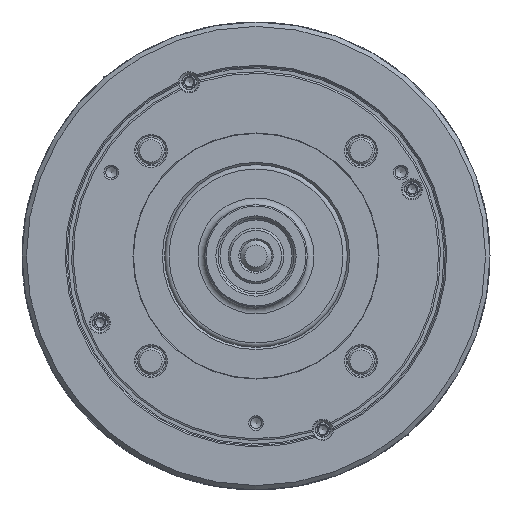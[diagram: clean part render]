
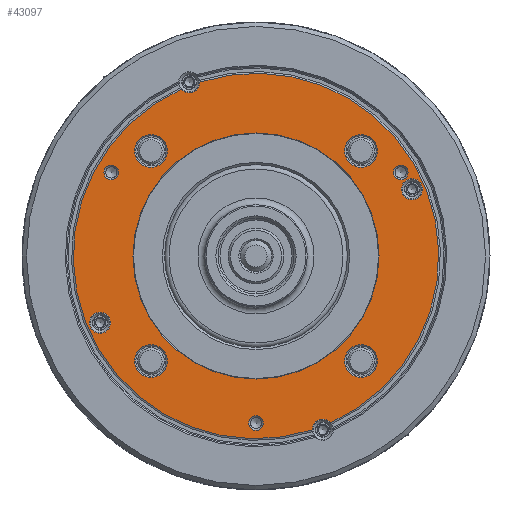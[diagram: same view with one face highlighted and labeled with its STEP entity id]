
A CAD part, left-side view. The second image highlights one B-rep face of the part: STEP entity #43097.
In plain terms, the highlighted planar face has unit normal (-1, 0, 0).
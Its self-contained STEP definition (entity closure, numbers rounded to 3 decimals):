
#570 = VERTEX_POINT ( 'NONE', #42467 ) ;
#886 = DIRECTION ( 'NONE',  ( 0., 1., 0. ) ) ;
#1487 = DIRECTION ( 'NONE',  ( 0., 1., 0. ) ) ;
#1668 = CARTESIAN_POINT ( 'NONE',  ( -86., 70., -30. ) ) ;
#1771 = CARTESIAN_POINT ( 'NONE',  ( -86., 0., -75. ) ) ;
#5060 = DIRECTION ( 'NONE',  ( 0., 1., 0. ) ) ;
#7553 = FACE_BOUND ( 'NONE', #17034, .T. ) ;
#8071 = FACE_BOUND ( 'NONE', #34439, .T. ) ;
#9124 = FACE_OUTER_BOUND ( 'NONE', #70156, .T. ) ;
#9463 = ORIENTED_EDGE ( 'NONE', *, *, #91098, .T. ) ;
#9535 = DIRECTION ( 'NONE',  ( 1., 0., 0. ) ) ;
#9631 = DIRECTION ( 'NONE',  ( 1., 0., 0. ) ) ;
#9740 = EDGE_LOOP ( 'NONE', ( #69068 ) ) ;
#9765 = VERTEX_POINT ( 'NONE', #24341 ) ;
#10483 = EDGE_CURVE ( 'NONE', #47165, #56048, #20177, .T. ) ;
#10740 = CIRCLE ( 'NONE', #103557, 7.35 ) ;
#10756 = EDGE_LOOP ( 'NONE', ( #20462 ) ) ;
#10917 = DIRECTION ( 'NONE',  ( 1., 0., 0. ) ) ;
#13293 = DIRECTION ( 'NONE',  ( 1., 0., 0. ) ) ;
#15990 = DIRECTION ( 'NONE',  ( 0., 1., 0. ) ) ;
#16128 = FACE_BOUND ( 'NONE', #93890, .T. ) ;
#16643 = FACE_BOUND ( 'NONE', #25388, .T. ) ;
#16972 = CARTESIAN_POINT ( 'NONE',  ( -86., 25.25, 78.016 ) ) ;
#17034 = EDGE_LOOP ( 'NONE', ( #75869 ) ) ;
#17186 = EDGE_LOOP ( 'NONE', ( #56562 ) ) ;
#18577 = CARTESIAN_POINT ( 'NONE',  ( -86., -64.952, 37.5 ) ) ;
#18767 = DIRECTION ( 'NONE',  ( 0., 1., 0. ) ) ;
#18832 = EDGE_CURVE ( 'NONE', #94351, #94351, #81078, .T. ) ;
#19294 = DIRECTION ( 'NONE',  ( 0., 1., 0. ) ) ;
#19392 = AXIS2_PLACEMENT_3D ( 'NONE', #50035, #9631, #19294 ) ;
#20177 = CIRCLE ( 'NONE', #94099, 82. ) ;
#20462 = ORIENTED_EDGE ( 'NONE', *, *, #85239, .T. ) ;
#21091 = CARTESIAN_POINT ( 'NONE',  ( -86., 0., 0. ) ) ;
#21182 = CARTESIAN_POINT ( 'NONE',  ( -86., -30., -78. ) ) ;
#22217 = VERTEX_POINT ( 'NONE', #67730 ) ;
#23670 = FACE_BOUND ( 'NONE', #65358, .T. ) ;
#24133 = AXIS2_PLACEMENT_3D ( 'NONE', #21091, #60399, #53406 ) ;
#24341 = CARTESIAN_POINT ( 'NONE',  ( -86., -39.814, -47.164 ) ) ;
#24584 = DIRECTION ( 'NONE',  ( 1., 0., 0. ) ) ;
#24734 = VERTEX_POINT ( 'NONE', #57567 ) ;
#25388 = EDGE_LOOP ( 'NONE', ( #64208 ) ) ;
#27410 = ORIENTED_EDGE ( 'NONE', *, *, #50680, .F. ) ;
#30500 = CIRCLE ( 'NONE', #59703, 55.2 ) ;
#32654 = CIRCLE ( 'NONE', #24133, 82. ) ;
#33335 = VERTEX_POINT ( 'NONE', #89887 ) ;
#33947 = AXIS2_PLACEMENT_3D ( 'NONE', #1771, #67910, #59851 ) ;
#34223 = CIRCLE ( 'NONE', #61743, 3.3 ) ;
#34439 = EDGE_LOOP ( 'NONE', ( #101476 ) ) ;
#39105 = EDGE_LOOP ( 'NONE', ( #39906 ) ) ;
#39906 = ORIENTED_EDGE ( 'NONE', *, *, #62792, .F. ) ;
#40491 = EDGE_CURVE ( 'NONE', #9765, #9765, #10740, .T. ) ;
#42467 = CARTESIAN_POINT ( 'NONE',  ( -86., -39.814, 47.164 ) ) ;
#43097 = ADVANCED_FACE ( 'NONE', ( #105492, #7553, #16128, #23670, #48972, #16643, #8071, #82318, #84940, #9124, #67737 ), #101097, .F. ) ;
#43795 = ORIENTED_EDGE ( 'NONE', *, *, #10483, .F. ) ;
#45913 = CARTESIAN_POINT ( 'NONE',  ( -86., -65.25, 30. ) ) ;
#46319 = VERTEX_POINT ( 'NONE', #80732 ) ;
#47165 = VERTEX_POINT ( 'NONE', #50848 ) ;
#47747 = AXIS2_PLACEMENT_3D ( 'NONE', #21182, #78757, #5060 ) ;
#48972 = FACE_BOUND ( 'NONE', #39105, .T. ) ;
#49902 = CARTESIAN_POINT ( 'NONE',  ( -86., 33.536, 74.829 ) ) ;
#50035 = CARTESIAN_POINT ( 'NONE',  ( -86., 0., -82. ) ) ;
#50680 = EDGE_CURVE ( 'NONE', #81919, #81919, #54793, .T. ) ;
#50848 = CARTESIAN_POINT ( 'NONE',  ( -86., -25.25, -78.016 ) ) ;
#51357 = CARTESIAN_POINT ( 'NONE',  ( -86., 64.952, 37.5 ) ) ;
#52890 = CARTESIAN_POINT ( 'NONE',  ( -86., -47.164, 47.164 ) ) ;
#53072 = CARTESIAN_POINT ( 'NONE',  ( -86., 47.164, -47.164 ) ) ;
#53338 = CARTESIAN_POINT ( 'NONE',  ( -86., 54.514, -47.164 ) ) ;
#53406 = DIRECTION ( 'NONE',  ( 0., 1., 0. ) ) ;
#54613 = DIRECTION ( 'NONE',  ( -1., 0., 0. ) ) ;
#54642 = CIRCLE ( 'NONE', #47747, 4.75 ) ;
#54793 = CIRCLE ( 'NONE', #33947, 3.3 ) ;
#55498 = CARTESIAN_POINT ( 'NONE',  ( -86., 30., 78. ) ) ;
#56048 = VERTEX_POINT ( 'NONE', #49902 ) ;
#56562 = ORIENTED_EDGE ( 'NONE', *, *, #93909, .T. ) ;
#56901 = DIRECTION ( 'NONE',  ( 0., 1., 0. ) ) ;
#57563 = AXIS2_PLACEMENT_3D ( 'NONE', #84898, #13293, #78414 ) ;
#57567 = CARTESIAN_POINT ( 'NONE',  ( -86., 74.75, -30. ) ) ;
#57636 = DIRECTION ( 'NONE',  ( 0., 1., 0. ) ) ;
#58171 = EDGE_CURVE ( 'NONE', #100689, #100689, #34223, .T. ) ;
#58463 = AXIS2_PLACEMENT_3D ( 'NONE', #1668, #83429, #57636 ) ;
#59703 = AXIS2_PLACEMENT_3D ( 'NONE', #74754, #82850, #18767 ) ;
#59851 = DIRECTION ( 'NONE',  ( 0., -1., 0. ) ) ;
#60399 = DIRECTION ( 'NONE',  ( 1., 0., 0. ) ) ;
#61383 = VERTEX_POINT ( 'NONE', #53338 ) ;
#61743 = AXIS2_PLACEMENT_3D ( 'NONE', #51357, #84162, #100322 ) ;
#62792 = EDGE_CURVE ( 'NONE', #102814, #102814, #68196, .T. ) ;
#64208 = ORIENTED_EDGE ( 'NONE', *, *, #84593, .T. ) ;
#64804 = CIRCLE ( 'NONE', #87133, 7.35 ) ;
#65358 = EDGE_LOOP ( 'NONE', ( #98753 ) ) ;
#66919 = AXIS2_PLACEMENT_3D ( 'NONE', #55498, #9535, #1487 ) ;
#67355 = CARTESIAN_POINT ( 'NONE',  ( -86., -3.3, -75. ) ) ;
#67730 = CARTESIAN_POINT ( 'NONE',  ( -86., -33.536, -74.829 ) ) ;
#67737 = FACE_BOUND ( 'NONE', #80106, .T. ) ;
#67876 = EDGE_CURVE ( 'NONE', #61383, #61383, #64804, .T. ) ;
#67910 = DIRECTION ( 'NONE',  ( -1., 0., 0. ) ) ;
#68075 = CARTESIAN_POINT ( 'NONE',  ( -86., 0., 0. ) ) ;
#68196 = CIRCLE ( 'NONE', #90567, 3.3 ) ;
#68341 = ORIENTED_EDGE ( 'NONE', *, *, #69400, .T. ) ;
#68393 = CARTESIAN_POINT ( 'NONE',  ( -86., 61.652, 37.5 ) ) ;
#68423 = EDGE_CURVE ( 'NONE', #46319, #46319, #30500, .T. ) ;
#69068 = ORIENTED_EDGE ( 'NONE', *, *, #40491, .T. ) ;
#69400 = EDGE_CURVE ( 'NONE', #47165, #22217, #54642, .T. ) ;
#70156 = EDGE_LOOP ( 'NONE', ( #86788, #9463, #43795, #68341 ) ) ;
#70239 = DIRECTION ( 'NONE',  ( 0., 1., 0. ) ) ;
#70882 = CARTESIAN_POINT ( 'NONE',  ( -86., -70., 30. ) ) ;
#72330 = DIRECTION ( 'NONE',  ( 0., -1., 0. ) ) ;
#73829 = CIRCLE ( 'NONE', #66919, 4.75 ) ;
#74048 = DIRECTION ( 'NONE',  ( 1., 0., 0. ) ) ;
#74754 = CARTESIAN_POINT ( 'NONE',  ( -86., 0., 0. ) ) ;
#75869 = ORIENTED_EDGE ( 'NONE', *, *, #18832, .T. ) ;
#77007 = CARTESIAN_POINT ( 'NONE',  ( -86., -68.252, 37.5 ) ) ;
#77818 = DIRECTION ( 'NONE',  ( 1., 0., 0. ) ) ;
#78414 = DIRECTION ( 'NONE',  ( 0., 1., 0. ) ) ;
#78757 = DIRECTION ( 'NONE',  ( 1., 0., 0. ) ) ;
#80106 = EDGE_LOOP ( 'NONE', ( #104868 ) ) ;
#80732 = CARTESIAN_POINT ( 'NONE',  ( -86., 55.2, 0. ) ) ;
#81078 = CIRCLE ( 'NONE', #94816, 4.75 ) ;
#81919 = VERTEX_POINT ( 'NONE', #67355 ) ;
#82318 = FACE_BOUND ( 'NONE', #9740, .T. ) ;
#82850 = DIRECTION ( 'NONE',  ( 1., 0., 0. ) ) ;
#83429 = DIRECTION ( 'NONE',  ( 1., 0., 0. ) ) ;
#84162 = DIRECTION ( 'NONE',  ( -1., 0., 0. ) ) ;
#84593 = EDGE_CURVE ( 'NONE', #33335, #33335, #103974, .T. ) ;
#84898 = CARTESIAN_POINT ( 'NONE',  ( -86., 47.164, 47.164 ) ) ;
#84940 = FACE_BOUND ( 'NONE', #10756, .T. ) ;
#85239 = EDGE_CURVE ( 'NONE', #570, #570, #95431, .T. ) ;
#86788 = ORIENTED_EDGE ( 'NONE', *, *, #93702, .F. ) ;
#87133 = AXIS2_PLACEMENT_3D ( 'NONE', #53072, #77818, #70239 ) ;
#89723 = CARTESIAN_POINT ( 'NONE',  ( -86., -47.164, -47.164 ) ) ;
#89887 = CARTESIAN_POINT ( 'NONE',  ( -86., 54.514, 47.164 ) ) ;
#90567 = AXIS2_PLACEMENT_3D ( 'NONE', #18577, #54613, #72330 ) ;
#91098 = EDGE_CURVE ( 'NONE', #93375, #56048, #73829, .T. ) ;
#92728 = DIRECTION ( 'NONE',  ( 0., 1., 0. ) ) ;
#93375 = VERTEX_POINT ( 'NONE', #16972 ) ;
#93702 = EDGE_CURVE ( 'NONE', #93375, #22217, #32654, .T. ) ;
#93890 = EDGE_LOOP ( 'NONE', ( #27410 ) ) ;
#93909 = EDGE_CURVE ( 'NONE', #24734, #24734, #96274, .T. ) ;
#94099 = AXIS2_PLACEMENT_3D ( 'NONE', #68075, #74048, #886 ) ;
#94351 = VERTEX_POINT ( 'NONE', #45913 ) ;
#94816 = AXIS2_PLACEMENT_3D ( 'NONE', #70882, #103738, #56901 ) ;
#95431 = CIRCLE ( 'NONE', #97125, 7.35 ) ;
#96274 = CIRCLE ( 'NONE', #58463, 4.75 ) ;
#97125 = AXIS2_PLACEMENT_3D ( 'NONE', #52890, #10917, #92728 ) ;
#98753 = ORIENTED_EDGE ( 'NONE', *, *, #58171, .F. ) ;
#100322 = DIRECTION ( 'NONE',  ( 0., -1., 0. ) ) ;
#100689 = VERTEX_POINT ( 'NONE', #68393 ) ;
#101097 = PLANE ( 'NONE',  #19392 ) ;
#101476 = ORIENTED_EDGE ( 'NONE', *, *, #67876, .T. ) ;
#102814 = VERTEX_POINT ( 'NONE', #77007 ) ;
#103557 = AXIS2_PLACEMENT_3D ( 'NONE', #89723, #24584, #15990 ) ;
#103738 = DIRECTION ( 'NONE',  ( 1., 0., 0. ) ) ;
#103974 = CIRCLE ( 'NONE', #57563, 7.35 ) ;
#104868 = ORIENTED_EDGE ( 'NONE', *, *, #68423, .T. ) ;
#105492 = FACE_BOUND ( 'NONE', #17186, .T. ) ;
